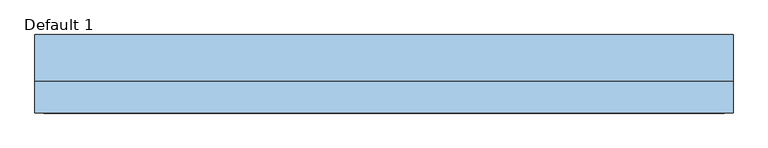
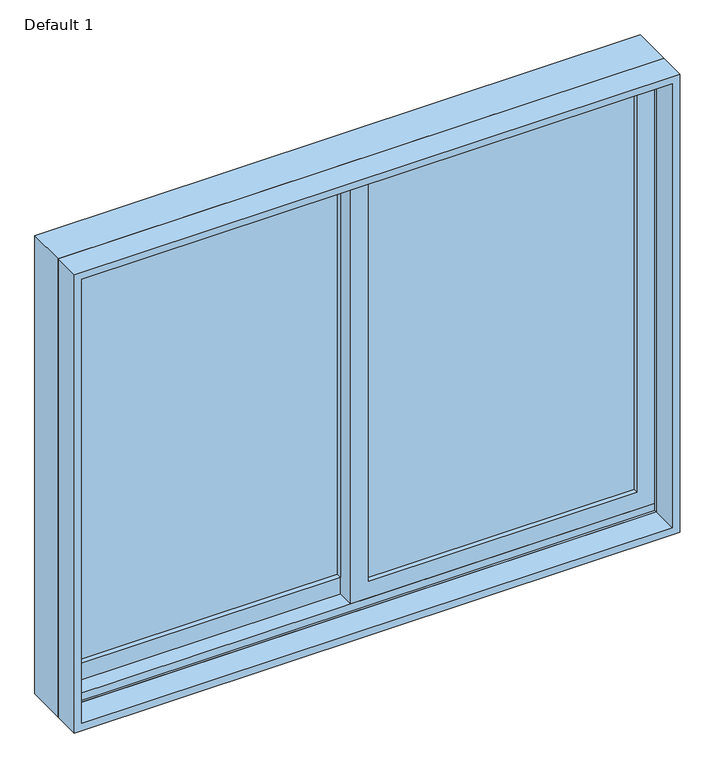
"""IFC4 building model written with IfcOpenShell, lengths in millimetres: window geometry, Planitar-Sliding-Double : Default 1."""

from ifc_helpers import new_model, si_unit, frame, origin, place, context, project, spatial, polyline, outline, extrude, faceted_brep, source, transform, mapped, element, save


def default_1_390526ce(model_context):
    return source(origin(), model_context, "Body", "SolidModel", [
        extrude(outline(polyline([(933.45, -742.95), (933.45, 22.225), (2114.55, 22.225), (2114.55, -742.95), (933.45, -742.95)]), holes=[polyline([(2070.1, -22.225), (996.95, -22.225), (996.95, -698.5), (2070.1, -698.5), (2070.1, -22.225)])]), frame((0.0, 40.64, 0.0), z_axis=(0.0, 1.0, 0.0), x_axis=(0.0, 0.0, 1.0)), (0.0, 0.0, 1.0), 44.45),
        extrude(outline(polyline([(952.5, 742.95), (2114.55, 742.95), (2114.55, -22.225), (952.5, -22.225), (952.5, 742.95)]), holes=[polyline([(996.95, 22.225), (2070.1, 22.225), (2070.1, 698.5), (996.95, 698.5), (996.95, 22.225)])]), frame((0.0, -3.81, 0.0), z_axis=(0.0, 1.0, 0.0), x_axis=(0.0, 0.0, 1.0)), (0.0, 0.0, 1.0), 44.45),
        faceted_brep([(-762.0, -10.16, 914.4), (-762.0, 91.44, 914.4), (762.0, 91.44, 914.4), (762.0, -10.16, 914.4), (-721.0778905, 91.44, 2092.6778905), (-721.0778905, 85.09, 2092.6778905), (-721.0778905, 85.09, 933.45), (-721.0778905, 91.44, 933.45), (721.0778905, 85.09, 2092.6778905), (721.0778905, 85.09, 933.45), (742.95, 85.09, 933.45), (742.95, 85.09, 2114.55), (-742.95, 85.09, 2114.55), (-742.95, 85.09, 933.45), (-742.95, -10.16, 2114.55), (-742.95, -10.16, 933.45), (-742.95, -3.81, 933.45), (-742.95, -3.81, 952.5), (-742.95, 40.64, 952.5), (-742.95, 40.64, 933.45), (762.0, -10.16, 2133.6), (-762.0, -10.16, 2133.6), (742.95, -10.16, 2114.55), (742.95, -10.16, 933.45), (-762.0, 91.44, 2133.6), (762.0, 91.44, 2133.6), (721.0778905, 91.44, 933.45), (721.0778905, 91.44, 2092.6778905), (742.95, 40.64, 933.45), (742.95, 40.64, 952.5), (742.95, -3.81, 952.5), (742.95, -3.81, 933.45)], [[[0, 1, 2, 3]], [[4, 5, 6, 7]], [[5, 8, 9, 10, 11, 12, 13, 6]], [[12, 14, 15, 16, 17, 18, 19, 13]], [[0, 3, 20, 21], [22, 23, 15, 14]], [[24, 1, 0, 21]], [[2, 1, 24, 25], [4, 7, 26, 27]], [[5, 4, 27, 8]], [[12, 11, 22, 14]], [[21, 20, 25, 24]], [[8, 27, 26, 9]], [[22, 11, 10, 28, 29, 30, 31, 23]], [[20, 3, 2, 25]], [[26, 7, 6, 13, 19, 28, 10, 9]], [[28, 19, 18, 29]], [[29, 18, 17, 30]], [[30, 17, 16, 31]], [[15, 23, 31, 16]]]),
        extrude(outline(polyline([(2133.6, -762.0), (914.4, -762.0), (914.4, 762.0), (2133.6, 762.0), (2133.6, -762.0)]), holes=[polyline([(2114.55, 742.95), (933.45, 742.95), (933.45, -742.95), (2114.55, -742.95), (2114.55, 742.95)])]), frame((0.0, -80.01, 0.0), z_axis=(0.0, 1.0, 0.0), x_axis=(0.0, 0.0, 1.0)), (0.0, 0.0, 1.0), 69.85),
        extrude(outline(polyline([(698.5, 27.94), (698.5, 21.59), (22.225, 21.59), (22.225, 27.94), (698.5, 27.94)])), frame((0.0, 0.0, 996.95), z_axis=(0.0, 0.0, 1.0), x_axis=(1.0, 0.0, 0.0)), (0.0, 0.0, 1.0), 1073.15),
        extrude(outline(polyline([(698.5, 15.24), (698.5, 8.89), (22.225, 8.89), (22.225, 15.24), (698.5, 15.24)])), frame((0.0, 0.0, 996.95), z_axis=(0.0, 0.0, 1.0), x_axis=(1.0, 0.0, 0.0)), (0.0, 0.0, 1.0), 1073.15),
        extrude(outline(polyline([(-22.225, 72.39), (-22.225, 66.04), (-698.5, 66.04), (-698.5, 72.39), (-22.225, 72.39)])), frame((0.0, 0.0, 996.95), z_axis=(0.0, 0.0, 1.0), x_axis=(1.0, 0.0, 0.0)), (0.0, 0.0, 1.0), 1073.15),
        extrude(outline(polyline([(-22.225, 59.69), (-22.225, 53.34), (-698.5, 53.34), (-698.5, 59.69), (-22.225, 59.69)])), frame((0.0, 0.0, 996.95), z_axis=(0.0, 0.0, 1.0), x_axis=(1.0, 0.0, 0.0)), (0.0, 0.0, 1.0), 1073.15),
    ])


if __name__ == "__main__":
    model = new_model("IFC4")
    model_context = context("Model", 3, world=origin())
    ifc_project = project(units=[si_unit("LENGTHUNIT", "METRE", prefix="MILLI")], contexts=[model_context])
    site = spatial("IfcSite", under=ifc_project)
    building = spatial("IfcBuilding", under=site)
    placement = place(None, origin())
    default_1_shape = default_1_390526ce(model_context)
    element("IfcWindow", 1, ObjectType="Planitar-Sliding-Double : Default 1", at=placement, inside=building, context=model_context, shape_type="MappedRepresentation", body=[
        mapped(default_1_shape, transform((0.0, 0.0, 0.0), x_axis=(1.0, 0.0, 0.0), y_axis=(0.0, 1.0, 0.0), z_axis=(0.0, 0.0, 1.0))),
    ])
    save(model, "model.ifc")
